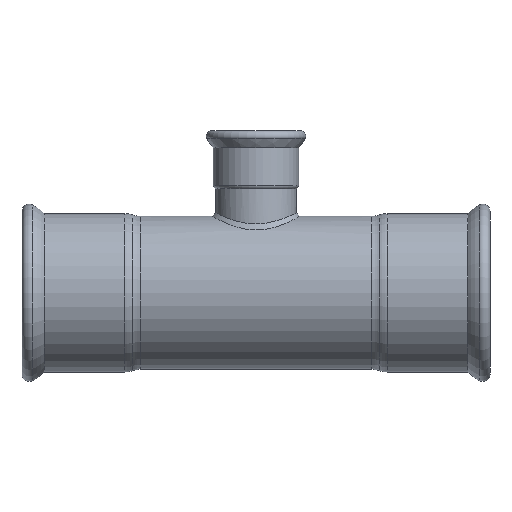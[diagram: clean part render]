
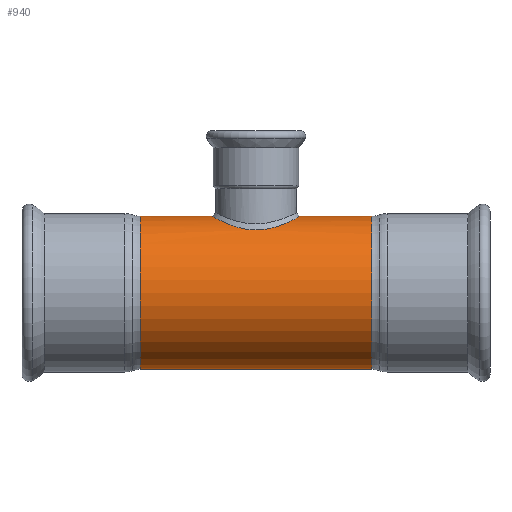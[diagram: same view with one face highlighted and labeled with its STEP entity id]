
A CAD part, front view. The second image highlights one B-rep face of the part: STEP entity #940.
In plain terms, the highlighted cylindrical face has radius 84.15 mm (diameter 168.3 mm), a full revolution.
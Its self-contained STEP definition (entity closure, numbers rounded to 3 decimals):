
#18=FACE_BOUND('',#148,.T.);
#22=B_SPLINE_CURVE_WITH_KNOTS('',3,(#1845,#1846,#1847,#1848,#1849,#1850,
#1851,#1852,#1853,#1854,#1855,#1856,#1857,#1858,#1859,#1860,#1861,#1862,
#1863,#1864,#1865,#1866,#1867,#1868,#1869,#1870,#1871,#1872,#1873,#1874,
#1875,#1876,#1877,#1878,#1879,#1880,#1881,#1882,#1883,#1884,#1885,#1886,
#1887,#1888,#1889,#1890,#1891,#1892,#1893,#1894,#1895,#1896,#1897,#1898,
#1899,#1900,#1901,#1902,#1903),.UNSPECIFIED.,.F.,.F.,(4,1,1,2,2,1,1,2,1,
2,2,1,2,2,1,1,2,1,2,2,1,2,2,1,2,1,1,2,2,1,2,2,1,2,1,1,2,4),(-0.954,
-0.943,-0.931,-0.908,-0.86,
-0.837,-0.831,-0.814,-0.801,
-0.765,-0.716,-0.692,-0.669,
-0.62,-0.596,-0.584,-0.572,
-0.56,-0.525,-0.477,-0.454,
-0.431,-0.384,-0.348,-0.336,
-0.324,-0.312,-0.289,-0.24,
-0.216,-0.192,-0.143,-0.107,
-0.095,-0.077,-0.071,-0.048,
0.),.UNSPECIFIED.);
#23=B_SPLINE_CURVE_WITH_KNOTS('',3,(#1904,#1905,#1906,#1907,#1908,#1909,
#1910),.UNSPECIFIED.,.F.,.F.,(4,3,4),(0.,0.023,0.046),
 .UNSPECIFIED.);
#100=FACE_OUTER_BOUND('',#147,.T.);
#147=EDGE_LOOP('',(#866,#867,#868,#869,#870,#871,#872,#873));
#148=EDGE_LOOP('',(#874,#875));
#168=LINE('',#2475,#188);
#188=VECTOR('',#1468,84.15);
#264=CIRCLE('',#1058,84.15);
#265=CIRCLE('',#1059,84.15);
#266=CIRCLE('',#1060,84.15);
#293=CIRCLE('',#1097,84.15);
#294=CIRCLE('',#1098,84.15);
#295=CIRCLE('',#1099,84.15);
#352=VERTEX_POINT('',#1843);
#353=VERTEX_POINT('',#1844);
#383=VERTEX_POINT('',#2322);
#384=VERTEX_POINT('',#2324);
#385=VERTEX_POINT('',#2326);
#406=VERTEX_POINT('',#2387);
#407=VERTEX_POINT('',#2389);
#408=VERTEX_POINT('',#2391);
#474=EDGE_CURVE('',#352,#353,#22,.T.);
#475=EDGE_CURVE('',#353,#352,#23,.T.);
#519=EDGE_CURVE('',#383,#384,#264,.T.);
#520=EDGE_CURVE('',#384,#385,#265,.T.);
#521=EDGE_CURVE('',#385,#383,#266,.T.);
#551=EDGE_CURVE('',#407,#406,#293,.T.);
#552=EDGE_CURVE('',#408,#407,#294,.T.);
#553=EDGE_CURVE('',#406,#408,#295,.T.);
#574=EDGE_CURVE('',#408,#384,#168,.T.);
#866=ORIENTED_EDGE('',*,*,#551,.T.);
#867=ORIENTED_EDGE('',*,*,#553,.T.);
#868=ORIENTED_EDGE('',*,*,#574,.T.);
#869=ORIENTED_EDGE('',*,*,#519,.F.);
#870=ORIENTED_EDGE('',*,*,#521,.F.);
#871=ORIENTED_EDGE('',*,*,#520,.F.);
#872=ORIENTED_EDGE('',*,*,#574,.F.);
#873=ORIENTED_EDGE('',*,*,#552,.T.);
#874=ORIENTED_EDGE('',*,*,#474,.T.);
#875=ORIENTED_EDGE('',*,*,#475,.T.);
#897=CYLINDRICAL_SURFACE('',#1123,84.15);
#940=ADVANCED_FACE('',(#100,#18),#897,.T.);
#1058=AXIS2_PLACEMENT_3D('',#2325,#1330,#1331);
#1059=AXIS2_PLACEMENT_3D('',#2327,#1332,#1333);
#1060=AXIS2_PLACEMENT_3D('',#2328,#1334,#1335);
#1097=AXIS2_PLACEMENT_3D('',#2390,#1411,#1412);
#1098=AXIS2_PLACEMENT_3D('',#2392,#1413,#1414);
#1099=AXIS2_PLACEMENT_3D('',#2393,#1415,#1416);
#1123=AXIS2_PLACEMENT_3D('',#2474,#1466,#1467);
#1330=DIRECTION('center_axis',(-1.,0.,0.));
#1331=DIRECTION('ref_axis',(0.,0.,-1.));
#1332=DIRECTION('center_axis',(-1.,0.,0.));
#1333=DIRECTION('ref_axis',(0.,0.,-1.));
#1334=DIRECTION('center_axis',(-1.,0.,0.));
#1335=DIRECTION('ref_axis',(0.,0.,-1.));
#1411=DIRECTION('center_axis',(-1.,0.,0.));
#1412=DIRECTION('ref_axis',(0.,0.,-1.));
#1413=DIRECTION('center_axis',(-1.,0.,0.));
#1414=DIRECTION('ref_axis',(0.,0.,-1.));
#1415=DIRECTION('center_axis',(-1.,0.,0.));
#1416=DIRECTION('ref_axis',(0.,0.,-1.));
#1466=DIRECTION('center_axis',(-1.,0.,0.));
#1467=DIRECTION('ref_axis',(0.,1.,0.));
#1468=DIRECTION('',(-1.,0.,0.));
#1843=CARTESIAN_POINT('',(0.,-48.173,68.997));
#1844=CARTESIAN_POINT('',(14.628,-45.899,70.53));
#1845=CARTESIAN_POINT('Ctrl Pts',(-0.004,-48.174,
68.996));
#1846=CARTESIAN_POINT('Ctrl Pts',(-1.26,-48.174,68.996));
#1847=CARTESIAN_POINT('Ctrl Pts',(-3.763,-48.075,69.065));
#1848=CARTESIAN_POINT('Ctrl Pts',(-8.797,-47.484,69.475));
#1849=CARTESIAN_POINT('Ctrl Pts',(-12.39,-46.612,70.066));
#1850=CARTESIAN_POINT('Ctrl Pts',(-19.303,-44.412,71.498));
#1851=CARTESIAN_POINT('Ctrl Pts',(-23.727,-42.197,72.871));
#1852=CARTESIAN_POINT('Ctrl Pts',(-29.536,-38.129,75.032));
#1853=CARTESIAN_POINT('Ctrl Pts',(-31.835,-36.249,75.968));
#1854=CARTESIAN_POINT('Ctrl Pts',(-35.073,-33.086,77.389));
#1855=CARTESIAN_POINT('Ctrl Pts',(-36.582,-31.39,78.089));
#1856=CARTESIAN_POINT('Ctrl Pts',(-38.355,-29.17,78.938));
#1857=CARTESIAN_POINT('Ctrl Pts',(-41.153,-25.405,80.309));
#1858=CARTESIAN_POINT('Ctrl Pts',(-43.448,-21.123,81.529));
#1859=CARTESIAN_POINT('Ctrl Pts',(-46.579,-13.229,83.235));
#1860=CARTESIAN_POINT('Ctrl Pts',(-47.691,-8.346,83.876));
#1861=CARTESIAN_POINT('Ctrl Pts',(-48.214,-1.222,84.173));
#1862=CARTESIAN_POINT('Ctrl Pts',(-48.229,3.554,84.182));
#1863=CARTESIAN_POINT('Ctrl Pts',(-47.489,8.447,83.759));
#1864=CARTESIAN_POINT('Ctrl Pts',(-45.872,15.497,82.849));
#1865=CARTESIAN_POINT('Ctrl Pts',(-44.043,20.105,81.83));
#1866=CARTESIAN_POINT('Ctrl Pts',(-40.457,26.255,79.977));
#1867=CARTESIAN_POINT('Ctrl Pts',(-38.451,29.187,78.969));
#1868=CARTESIAN_POINT('Ctrl Pts',(-35.415,32.715,77.546));
#1869=CARTESIAN_POINT('Ctrl Pts',(-33.836,34.308,76.843));
#1870=CARTESIAN_POINT('Ctrl Pts',(-32.191,35.856,76.133));
#1871=CARTESIAN_POINT('Ctrl Pts',(-28.735,38.893,74.684));
#1872=CARTESIAN_POINT('Ctrl Pts',(-24.689,41.522,73.217));
#1873=CARTESIAN_POINT('Ctrl Pts',(-17.135,45.288,70.967));
#1874=CARTESIAN_POINT('Ctrl Pts',(-12.251,46.858,69.902));
#1875=CARTESIAN_POINT('Ctrl Pts',(-5.004,47.972,69.139));
#1876=CARTESIAN_POINT('Ctrl Pts',(0.,48.376,
68.854));
#1877=CARTESIAN_POINT('Ctrl Pts',(5.004,47.972,69.139));
#1878=CARTESIAN_POINT('Ctrl Pts',(12.251,46.858,69.902));
#1879=CARTESIAN_POINT('Ctrl Pts',(17.135,45.288,70.967));
#1880=CARTESIAN_POINT('Ctrl Pts',(24.689,41.522,73.217));
#1881=CARTESIAN_POINT('Ctrl Pts',(28.735,38.893,74.684));
#1882=CARTESIAN_POINT('Ctrl Pts',(32.191,35.856,76.133));
#1883=CARTESIAN_POINT('Ctrl Pts',(33.836,34.308,76.843));
#1884=CARTESIAN_POINT('Ctrl Pts',(35.415,32.715,77.546));
#1885=CARTESIAN_POINT('Ctrl Pts',(38.451,29.187,78.969));
#1886=CARTESIAN_POINT('Ctrl Pts',(40.457,26.255,79.977));
#1887=CARTESIAN_POINT('Ctrl Pts',(44.043,20.105,81.83));
#1888=CARTESIAN_POINT('Ctrl Pts',(45.872,15.497,82.849));
#1889=CARTESIAN_POINT('Ctrl Pts',(47.489,8.447,83.759));
#1890=CARTESIAN_POINT('Ctrl Pts',(48.229,3.554,84.182));
#1891=CARTESIAN_POINT('Ctrl Pts',(48.214,-1.222,84.173));
#1892=CARTESIAN_POINT('Ctrl Pts',(47.691,-8.346,83.876));
#1893=CARTESIAN_POINT('Ctrl Pts',(46.579,-13.229,83.235));
#1894=CARTESIAN_POINT('Ctrl Pts',(43.448,-21.123,81.529));
#1895=CARTESIAN_POINT('Ctrl Pts',(41.153,-25.405,80.309));
#1896=CARTESIAN_POINT('Ctrl Pts',(38.355,-29.17,78.938));
#1897=CARTESIAN_POINT('Ctrl Pts',(36.582,-31.39,78.089));
#1898=CARTESIAN_POINT('Ctrl Pts',(35.073,-33.086,77.389));
#1899=CARTESIAN_POINT('Ctrl Pts',(31.835,-36.249,75.968));
#1900=CARTESIAN_POINT('Ctrl Pts',(29.536,-38.129,75.032));
#1901=CARTESIAN_POINT('Ctrl Pts',(23.727,-42.196,72.872));
#1902=CARTESIAN_POINT('Ctrl Pts',(19.302,-44.409,71.5));
#1903=CARTESIAN_POINT('Ctrl Pts',(14.628,-45.899,70.53));
#1904=CARTESIAN_POINT('Ctrl Pts',(14.628,-45.899,70.53));
#1905=CARTESIAN_POINT('Ctrl Pts',(12.391,-46.612,70.066));
#1906=CARTESIAN_POINT('Ctrl Pts',(9.982,-47.193,69.672));
#1907=CARTESIAN_POINT('Ctrl Pts',(7.512,-47.584,69.404));
#1908=CARTESIAN_POINT('Ctrl Pts',(5.041,-47.974,69.137));
#1909=CARTESIAN_POINT('Ctrl Pts',(2.508,-48.174,68.996));
#1910=CARTESIAN_POINT('Ctrl Pts',(-0.004,-48.174,
68.996));
#2322=CARTESIAN_POINT('',(-127.36,0.,-84.15));
#2324=CARTESIAN_POINT('',(-127.36,-84.15,0.));
#2325=CARTESIAN_POINT('Origin',(-127.36,0.,0.));
#2326=CARTESIAN_POINT('',(-127.36,84.15,0.));
#2327=CARTESIAN_POINT('Origin',(-127.36,0.,0.));
#2328=CARTESIAN_POINT('Origin',(-127.36,0.,0.));
#2387=CARTESIAN_POINT('',(127.36,0.,-84.15));
#2389=CARTESIAN_POINT('',(127.36,84.15,0.));
#2390=CARTESIAN_POINT('Origin',(127.36,0.,0.));
#2391=CARTESIAN_POINT('',(127.36,-84.15,0.));
#2392=CARTESIAN_POINT('Origin',(127.36,0.,0.));
#2393=CARTESIAN_POINT('Origin',(127.36,0.,0.));
#2474=CARTESIAN_POINT('Origin',(0.,0.,0.));
#2475=CARTESIAN_POINT('',(0.,-84.15,0.));
